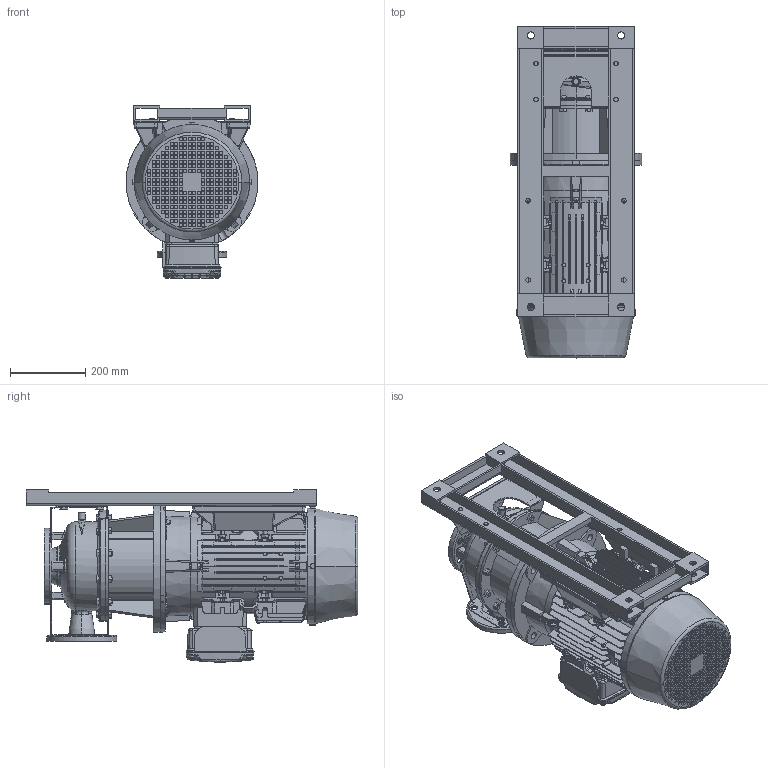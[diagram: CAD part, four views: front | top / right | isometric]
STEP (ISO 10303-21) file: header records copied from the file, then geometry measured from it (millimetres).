
FILE_DESCRIPTION (( 'STEP AP214' ), '1' );
FILE_NAME ('3LS 65-160_15.0_(160ML)_W21.STEP', '2026-09-08T23:50:19', ( '' ), ( '' ), 'SwSTEP 2.0', 'SolidWorks 2024', '' );
FILE_SCHEMA (( 'AUTOMOTIVE_DESIGN' ));
Length unit declared in the file: inch
Products named in the file (3): 3LS 65-160_15.0_(160ML)_W21; 160M_L_ALIE3_W21T_B35; 65-160_15
Assembly tree (2 placements, depth 2):
  3LS 65-160_15.0_(160ML)_W21
    160M_L_ALIE3_W21T_B35
    65-160_15
Bounding box: 350 x 879.8 x 456.5 mm (x, y, z)
Volume: 44330361.8 mm3; surface area: 3598957.3 mm2
Topology: 43 solids, 49 shells, 5593 faces, 14455 edges, 9385 vertices
Faces by surface type: plane 3688, cylinder 899, cone 487, bspline 358, torus 141, sphere 20
Entity records: 199578 total; most frequent: CARTESIAN_POINT 66729, ORIENTED_EDGE 28858, DIRECTION 24949, EDGE_CURVE 14429, VECTOR 9677, LINE 9677, VERTEX_POINT 9383, AXIS2_PLACEMENT_3D 7636
